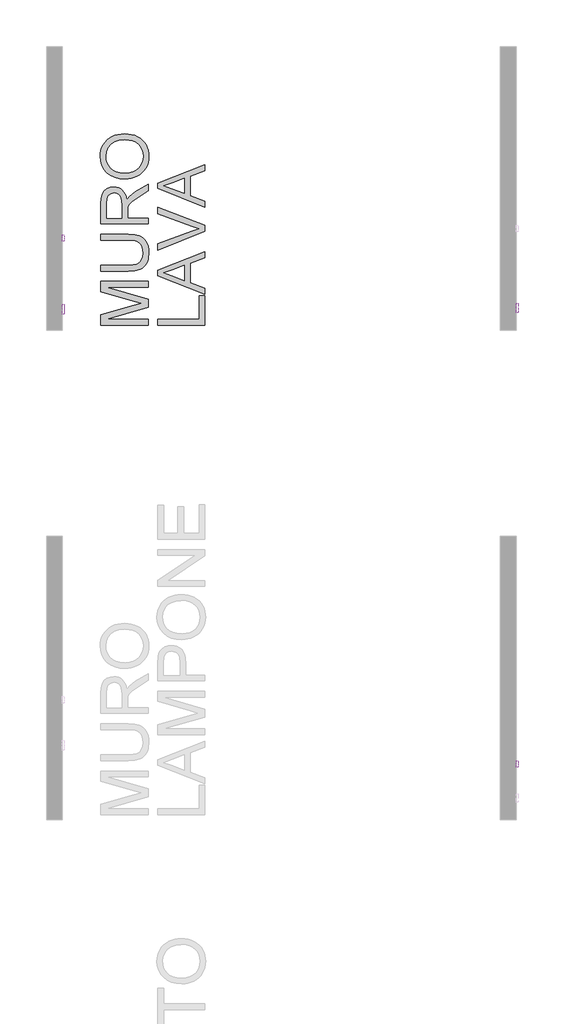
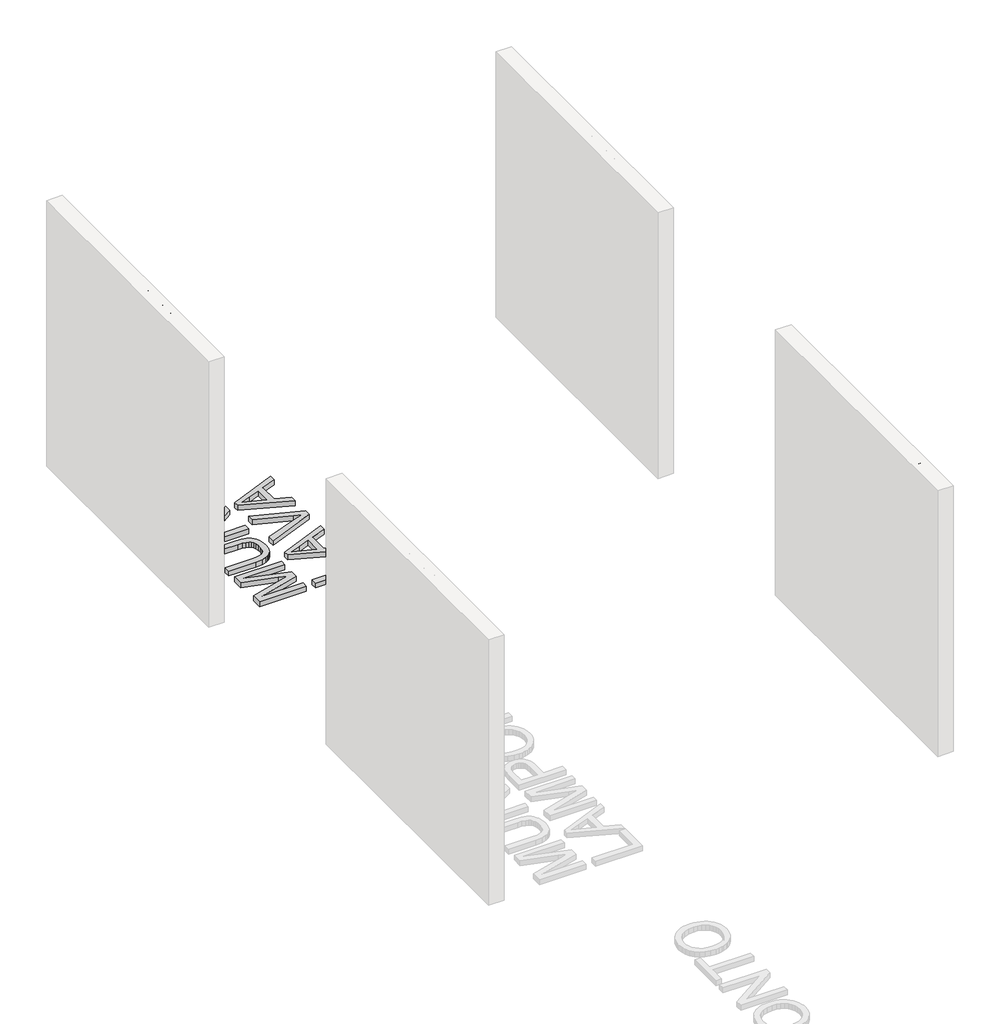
# One storey, part 9 of 11: 5 proxies.
"""IFC4 building model written with IfcOpenShell, lengths in millimetres."""

from ifc_helpers import new_model, si_unit, frame, origin, origin_with_axes, place, context, project, spatial, polyline, outline, extrude, element, save

model = new_model("IFC4")

# Units and contexts
model_context = context("Model", 3, world=origin())
ifc_project = project(units=[si_unit("LENGTHUNIT", "METRE", prefix="MILLI")], contexts=[model_context])

# Site, building, storey
site = spatial("IfcSite", under=ifc_project)
building = spatial("IfcBuilding", under=site)
storey = spatial("IfcBuildingStorey", under=building, Name="PORTOBELLO - SHOWROOM", Elevation=0.0)

# Proxies
placement = place(None, origin())
element("IfcBuildingElementProxy", 1, Name="10mm Arial", ObjectType="10mm Arial", at=placement, inside=storey, context=model_context, shape_type="SweptSolid", body=[
    extrude(outline(polyline([(4656.77717, 2563.6139899), (4656.77717, 2664.0703), (4678.3841059, 2664.0703), (4698.9364467, 2593.2652787), (4703.0812505, 2578.4764225), (4707.5694108, 2594.491552), (4727.7783951, 2664.0703), (4749.385331, 2664.0703), (4749.385331, 2563.6139899), (4736.8282922, 2563.6139899), (4736.8282922, 2651.5132612), (4711.5915873, 2563.6139899), (4694.5709137, 2563.6139899), (4669.3342088, 2651.5132612), (4669.3342088, 2563.6139899), (4656.77717, 2563.6139899)])), frame((-30379.0012486, 0.0, 0.0), z_axis=(1.0, 0.0, 0.0), x_axis=(0.0, 1.0, 0.0)), (0.0, 0.0, 1.0), 20.0),
    extrude(outline(polyline([(4816.8794143, 2563.6139899), (4816.8794143, 2576.293656), (4807.0447023, 2565.606684), (4794.2178834, 2562.04436), (4782.4088714, 2564.5459576), (4774.2664166, 2570.824477), (4770.5262829, 2580.0705778), (4769.790519, 2591.7446998), (4769.790519, 2637.3865926), (4782.3475577, 2637.3865926), (4782.3475577, 2597.6553372), (4783.1078472, 2584.8530437), (4788.0742541, 2577.3359883), (4797.4307195, 2574.6013988), (4807.9153564, 2577.397302), (4814.8438006, 2585.0124593), (4816.8794143, 2599.0042378), (4816.8794143, 2637.3865926), (4829.4364531, 2637.3865926), (4829.4364531, 2563.6139899), (4816.8794143, 2563.6139899)])), frame((-30379.0012486, 0.0, 0.0), z_axis=(1.0, 0.0, 0.0), x_axis=(0.0, 1.0, 0.0)), (0.0, 0.0, 1.0), 20.0),
    extrude(outline(polyline([(4846.7023814, 2563.6139899), (4846.7023814, 2637.3865926), (4857.6897903, 2637.3865926), (4857.6897903, 2626.4727601), (4865.4888886, 2636.5282013), (4873.3370379, 2638.9562225), (4885.9431276, 2635.0811988), (4881.7492728, 2623.8240097), (4872.9201049, 2626.3991837), (4865.8199824, 2623.9221116), (4861.2950339, 2617.054981), (4859.2594202, 2602.3887522), (4859.2594202, 2563.6139899), (4846.7023814, 2563.6139899)])), frame((-30379.0012486, 0.0, 0.0), z_axis=(1.0, 0.0, 0.0), x_axis=(0.0, 1.0, 0.0)), (0.0, 0.0, 1.0), 20.0),
    extrude(outline(polyline([(4890.6520171, 2600.5002913), (4893.3682125, 2618.2873857), (4901.5167987, 2630.7892422), (4911.5845026, 2636.9144774), (4923.6387693, 2638.9562225), (4936.8304045, 2636.4699533), (4947.367158, 2629.0111459), (4954.2741425, 2617.1684113), (4956.5764706, 2601.5303608), (4952.5052432, 2579.187661), (4940.6471802, 2566.5447831), (4923.6387693, 2562.04436), (4910.2877186, 2564.5214321), (4899.7632279, 2571.9526484), (4892.9298198, 2584.0437033), (4890.6520171, 2600.5002913)]), holes=[polyline([(4903.2090559, 2600.5248167), (4904.6621898, 2589.1603287), (4909.0215914, 2581.0638592), (4915.5821536, 2576.2170139), (4923.6387693, 2574.6013988), (4931.6585968, 2576.2262109), (4938.2068963, 2581.1006474), (4942.566298, 2589.3044159), (4944.0194319, 2600.9172242), (4942.5571009, 2611.9506184), (4938.1701081, 2619.9367233), (4931.6126116, 2624.7835686), (4923.6387693, 2626.3991837), (4915.5821536, 2624.7897), (4909.0215914, 2619.9612488), (4904.6621898, 2611.8831733), (4903.2090559, 2600.5248167)])]), frame((-30379.0012486, 0.0, 0.0), z_axis=(1.0, 0.0, 0.0), x_axis=(0.0, 1.0, 0.0)), (0.0, 0.0, 1.0), 20.0),
    extrude(outline(polyline([(5011.5135153, 2563.6139899), (5011.5135153, 2664.0703), (5024.070554, 2664.0703), (5024.070554, 2576.1710286), (5074.2987091, 2576.1710286), (5074.2987091, 2563.6139899), (5011.5135153, 2563.6139899)])), frame((-30379.0012486, 0.0, 0.0), z_axis=(1.0, 0.0, 0.0), x_axis=(0.0, 1.0, 0.0)), (0.0, 0.0, 1.0), 20.0),
    extrude(outline(polyline([(5133.9446432, 2573.0317689), (5121.7677492, 2564.5214321), (5108.3155309, 2562.04436), (5097.821697, 2563.5342821), (5090.0808467, 2568.0040483), (5085.3075778, 2574.7914712), (5083.7164882, 2583.2343629), (5086.1199839, 2593.1671768), (5092.4352915, 2600.3776639), (5101.2276711, 2604.4979423), (5112.0924527, 2606.3864032), (5133.8710668, 2610.7028853), (5133.9446432, 2613.4987884), (5130.4865525, 2622.7694147), (5116.6051385, 2626.3991837), (5103.900947, 2623.9834253), (5097.8431568, 2615.4117748), (5085.286118, 2616.9814046), (5090.7185088, 2629.2441378), (5101.6568668, 2636.4300994), (5118.2238193, 2638.9562225), (5133.4418712, 2636.724405), (5142.0380471, 2631.120336), (5145.8885454, 2622.5977364), (5146.501682, 2611.6103275), (5146.501682, 2595.9876054), (5147.1393441, 2574.1722031), (5149.6409417, 2563.6139899), (5137.0839029, 2563.6139899), (5133.9446432, 2573.0317689)]), holes=[polyline([(5133.9446432, 2598.1458465), (5113.686608, 2594.2953483), (5102.8831401, 2592.2597346), (5097.9903096, 2588.9487966), (5096.2735269, 2584.1172797), (5100.0136606, 2577.3237256), (5110.9888067, 2574.6013988), (5123.6929983, 2577.6057684), (5131.8845041, 2584.8775692), (5133.8710668, 2594.5896539), (5133.9446432, 2598.1458465)])]), frame((-30379.0012486, 0.0, 0.0), z_axis=(1.0, 0.0, 0.0), x_axis=(0.0, 1.0, 0.0)), (0.0, 0.0, 1.0), 20.0),
    extrude(outline(polyline([(5181.8674045, 2563.6139899), (5155.9194611, 2637.3865926), (5169.2122639, 2637.3865926), (5184.9330878, 2593.1917023), (5189.6665028, 2578.3292697), (5194.3018159, 2592.3578364), (5210.1207417, 2637.3865926), (5223.4135445, 2637.3865926), (5197.7844321, 2563.6139899), (5181.8674045, 2563.6139899)])), frame((-30379.0012486, 0.0, 0.0), z_axis=(1.0, 0.0, 0.0), x_axis=(0.0, 1.0, 0.0)), (0.0, 0.0, 1.0), 20.0),
    extrude(outline(polyline([(5281.4898488, 2573.0317689), (5269.3129547, 2564.5214321), (5255.8607364, 2562.04436), (5245.3669025, 2563.5342821), (5237.6260522, 2568.0040483), (5232.8527833, 2574.7914712), (5231.2616937, 2583.2343629), (5233.6651894, 2593.1671768), (5239.980497, 2600.3776639), (5248.7728767, 2604.4979423), (5259.6376583, 2606.3864032), (5281.4162724, 2610.7028853), (5281.4898488, 2613.4987884), (5278.031758, 2622.7694147), (5264.1503441, 2626.3991837), (5251.4461525, 2623.9834253), (5245.3883623, 2615.4117748), (5232.8313236, 2616.9814046), (5238.2637143, 2629.2441378), (5249.2020723, 2636.4300994), (5265.7690249, 2638.9562225), (5280.9870767, 2636.724405), (5289.5832527, 2631.120336), (5293.4337509, 2622.5977364), (5294.0468875, 2611.6103275), (5294.0468875, 2595.9876054), (5294.6845497, 2574.1722031), (5297.1861472, 2563.6139899), (5284.6291085, 2563.6139899), (5281.4898488, 2573.0317689)]), holes=[polyline([(5281.4898488, 2598.1458465), (5261.2318136, 2594.2953483), (5250.4283457, 2592.2597346), (5245.5355151, 2588.9487966), (5243.8187325, 2584.1172797), (5247.5588661, 2577.3237256), (5258.5340123, 2574.6013988), (5271.2382038, 2577.6057684), (5279.4297096, 2584.8775692), (5281.4162724, 2594.5896539), (5281.4898488, 2598.1458465)])]), frame((-30379.0012486, 0.0, 0.0), z_axis=(1.0, 0.0, 0.0), x_axis=(0.0, 1.0, 0.0)), (0.0, 0.0, 1.0), 20.0),
])
element("IfcBuildingElementProxy", 2, Name="10mm Arial", ObjectType="10mm Arial", at=placement, inside=storey, context=model_context, shape_type="SweptSolid", body=[
    extrude(outline(polyline([(4669.4182548, 2564.6541058), (4669.4182548, 2665.110416), (4691.0251906, 2665.110416), (4711.5775314, 2594.3053946), (4715.7223353, 2579.5165384), (4720.2104956, 2595.531668), (4740.4194799, 2665.110416), (4762.0264157, 2665.110416), (4762.0264157, 2564.6541058), (4749.4693769, 2564.6541058), (4749.4693769, 2652.5533772), (4724.2326721, 2564.6541058), (4707.2119984, 2564.6541058), (4681.9752936, 2652.5533772), (4681.9752936, 2564.6541058), (4669.4182548, 2564.6541058)])), frame((-26058.2301018, 0.0, 0.0), z_axis=(1.0, 0.0, 0.0), x_axis=(0.0, 1.0, 0.0)), (0.0, 0.0, 1.0), 20.0),
    extrude(outline(polyline([(4829.5204991, 2564.6541058), (4829.5204991, 2577.3337719), (4819.6857871, 2566.6468), (4806.8589682, 2563.084476), (4795.0499561, 2565.5860735), (4786.9075013, 2571.8645929), (4783.1673677, 2581.1106937), (4782.4316037, 2592.7848157), (4782.4316037, 2638.4267086), (4794.9886425, 2638.4267086), (4794.9886425, 2598.6954531), (4795.7489319, 2585.8931597), (4800.7153389, 2578.3761042), (4810.0718043, 2575.6415147), (4820.5564411, 2578.4374179), (4827.4848854, 2586.0525752), (4829.5204991, 2600.0443538), (4829.5204991, 2638.4267086), (4842.0775379, 2638.4267086), (4842.0775379, 2564.6541058), (4829.5204991, 2564.6541058)])), frame((-26058.2301018, 0.0, 0.0), z_axis=(1.0, 0.0, 0.0), x_axis=(0.0, 1.0, 0.0)), (0.0, 0.0, 1.0), 20.0),
    extrude(outline(polyline([(4859.3434662, 2564.6541058), (4859.3434662, 2638.4267086), (4870.3308751, 2638.4267086), (4870.3308751, 2627.5128761), (4878.1299734, 2637.5683173), (4885.9781226, 2639.9963384), (4898.5842123, 2636.1213148), (4894.3903576, 2624.8641257), (4885.5611897, 2627.4392997), (4878.4610672, 2624.9622276), (4873.9361186, 2618.095097), (4871.9005049, 2603.4288681), (4871.9005049, 2564.6541058), (4859.3434662, 2564.6541058)])), frame((-26058.2301018, 0.0, 0.0), z_axis=(1.0, 0.0, 0.0), x_axis=(0.0, 1.0, 0.0)), (0.0, 0.0, 1.0), 20.0),
    extrude(outline(polyline([(4903.2931019, 2601.5404072), (4906.0092973, 2619.3275017), (4914.1578834, 2631.8293581), (4924.2255874, 2637.9545934), (4936.2798541, 2639.9963384), (4949.4714893, 2637.5100693), (4960.0082428, 2630.0512618), (4966.9152272, 2618.2085273), (4969.2175554, 2602.5704768), (4965.146328, 2580.227777), (4953.288265, 2567.5848991), (4936.2798541, 2563.084476), (4922.9288034, 2565.5615481), (4912.4043126, 2572.9927644), (4905.5709045, 2585.0838193), (4903.2931019, 2601.5404072)]), holes=[polyline([(4915.8501406, 2601.5649327), (4917.3032745, 2590.2004447), (4921.6626762, 2582.1039751), (4928.2232384, 2577.2571298), (4936.2798541, 2575.6415147), (4944.2996816, 2577.2663269), (4950.8479811, 2582.1407633), (4955.2073827, 2590.3445318), (4956.6605166, 2601.9573401), (4955.1981857, 2612.9907343), (4950.8111929, 2620.9768393), (4944.2536963, 2625.8236846), (4936.2798541, 2627.4392997), (4928.2232384, 2625.8298159), (4921.6626762, 2621.0013648), (4917.3032745, 2612.9232893), (4915.8501406, 2601.5649327)])]), frame((-26058.2301018, 0.0, 0.0), z_axis=(1.0, 0.0, 0.0), x_axis=(0.0, 1.0, 0.0)), (0.0, 0.0, 1.0), 20.0),
    extrude(outline(polyline([(5024.1546, 2564.6541058), (5024.1546, 2665.110416), (5045.7615359, 2665.110416), (5066.3138767, 2594.3053946), (5070.4586805, 2579.5165384), (5074.9468408, 2595.531668), (5095.1558251, 2665.110416), (5116.7627609, 2665.110416), (5116.7627609, 2564.6541058), (5104.2057222, 2564.6541058), (5104.2057222, 2652.5533772), (5078.9690173, 2564.6541058), (5061.9483436, 2564.6541058), (5036.7116388, 2652.5533772), (5036.7116388, 2564.6541058), (5024.1546, 2564.6541058)])), frame((-26058.2301018, 0.0, 0.0), z_axis=(1.0, 0.0, 0.0), x_axis=(0.0, 1.0, 0.0)), (0.0, 0.0, 1.0), 20.0),
    extrude(outline(polyline([(5188.818581, 2586.6289237), (5201.1303652, 2585.0592938), (5196.6943214, 2575.7825362), (5189.6156587, 2568.8479606), (5180.0537925, 2564.5253471), (5168.1681384, 2563.084476), (5153.4344645, 2565.5707451), (5142.0975677, 2573.0295526), (5134.8686865, 2584.9765204), (5132.4590594, 2600.9272705), (5134.8932119, 2617.4145153), (5142.1956695, 2629.7446935), (5153.3792822, 2637.4334272), (5167.4568999, 2639.9963384), (5181.0961248, 2637.4395586), (5191.9946289, 2629.769219), (5199.1407367, 2617.4635662), (5201.5227726, 2601.0008469), (5201.4491962, 2597.6163326), (5145.0160982, 2597.6163326), (5147.1896676, 2588.2169476), (5152.238848, 2581.3068975), (5159.5259772, 2577.0578604), (5168.413393, 2575.6415147), (5180.7251772, 2578.2657396), (5188.818581, 2586.6289237)]), holes=[polyline([(5145.0160982, 2610.1733714), (5188.9657338, 2610.1733714), (5183.9380132, 2621.5531877), (5176.6171615, 2625.9677717), (5167.4078489, 2627.4392997), (5151.9445424, 2622.7426729), (5147.079303, 2617.2520341), (5145.0160982, 2610.1733714)])]), frame((-26058.2301018, 0.0, 0.0), z_axis=(1.0, 0.0, 0.0), x_axis=(0.0, 1.0, 0.0)), (0.0, 0.0, 1.0), 20.0),
    extrude(outline(polyline([(5214.0798114, 2564.6541058), (5214.0798114, 2638.4267086), (5225.0672203, 2638.4267086), (5225.0672203, 2627.5128761), (5232.8663186, 2637.5683173), (5240.7144678, 2639.9963384), (5253.3205575, 2636.1213148), (5249.1267028, 2624.8641257), (5240.2975349, 2627.4392997), (5233.1974124, 2624.9622276), (5228.6724639, 2618.095097), (5226.6368502, 2603.4288681), (5226.6368502, 2564.6541058), (5214.0798114, 2564.6541058)])), frame((-26058.2301018, 0.0, 0.0), z_axis=(1.0, 0.0, 0.0), x_axis=(0.0, 1.0, 0.0)), (0.0, 0.0, 1.0), 20.0),
    extrude(outline(polyline([(-26038.2301018, 5273.7257455), (-26038.2301018, 5261.1687068), (-26058.2301018, 5261.1687068), (-26058.2301018, 5273.7257455), (-26038.2301018, 5273.7257455)])), frame((0.0, 0.0, 2564.6541058), z_axis=(0.0, 0.0, 1.0), x_axis=(1.0, 0.0, 0.0)), (0.0, 0.0, 1.0), 100.4563101),
    extrude(outline(polyline([(5289.422044, 2601.5404072), (5292.1382394, 2619.3275017), (5300.2868256, 2631.8293581), (5310.3545295, 2637.9545934), (5322.4087962, 2639.9963384), (5335.6004314, 2637.5100693), (5346.1371849, 2630.0512618), (5353.0441694, 2618.2085273), (5355.3464975, 2602.5704768), (5351.2752701, 2580.227777), (5339.4172071, 2567.5848991), (5322.4087962, 2563.084476), (5309.0577455, 2565.5615481), (5298.5332547, 2572.9927644), (5291.6998467, 2585.0838193), (5289.422044, 2601.5404072)]), holes=[polyline([(5301.9790828, 2601.5649327), (5303.4322166, 2590.2004447), (5307.7916183, 2582.1039751), (5314.3521805, 2577.2571298), (5322.4087962, 2575.6415147), (5330.4286237, 2577.2663269), (5336.9769232, 2582.1407633), (5341.3363249, 2590.3445318), (5342.7894588, 2601.9573401), (5341.3271278, 2612.9907343), (5336.940135, 2620.9768393), (5330.3826385, 2625.8236846), (5322.4087962, 2627.4392997), (5314.3521805, 2625.8298159), (5307.7916183, 2621.0013648), (5303.4322166, 2612.9232893), (5301.9790828, 2601.5649327)])]), frame((-26058.2301018, 0.0, 0.0), z_axis=(1.0, 0.0, 0.0), x_axis=(0.0, 1.0, 0.0)), (0.0, 0.0, 1.0), 20.0),
    extrude(outline(polyline([(5396.1568735, 2575.12648), (5397.7265034, 2564.2862238), (5388.3332498, 2563.084476), (5377.8118247, 2565.1691406), (5372.5633749, 2570.6383196), (5371.042796, 2584.8876156), (5371.042796, 2625.8696698), (5361.6250169, 2625.8696698), (5361.6250169, 2638.4267086), (5371.042796, 2638.4267086), (5371.042796, 2656.3548245), (5383.5998348, 2663.7369899), (5383.5998348, 2638.4267086), (5396.1568735, 2638.4267086), (5396.1568735, 2625.8696698), (5383.5998348, 2625.8696698), (5383.5998348, 2585.2554976), (5384.2620224, 2578.7807744), (5386.4080007, 2576.4876433), (5390.6876945, 2575.6415147), (5396.1568735, 2575.12648)])), frame((-26058.2301018, 0.0, 0.0), z_axis=(1.0, 0.0, 0.0), x_axis=(0.0, 1.0, 0.0)), (0.0, 0.0, 1.0), 20.0),
])
element("IfcBuildingElementProxy", 3, Name="10mm Arial Narrow", ObjectType="10mm Arial Narrow", at=placement, inside=storey, context=model_context, shape_type="SweptSolid", body=[
    extrude(outline(polyline([(5348.9122292, 2563.6139899), (5348.9122292, 2664.3325936), (5380.2091138, 2664.3325936), (5396.5048154, 2662.4542729), (5407.9778015, 2652.9738297), (5412.2674799, 2635.9547209), (5410.4811715, 2623.8788954), (5405.1222463, 2614.2525016), (5395.3784575, 2607.9512432), (5380.4375583, 2605.8508237), (5358.6591908, 2605.8508237), (5358.6591908, 2563.6139899), (5348.9122292, 2563.6139899)]), holes=[polyline([(5358.6591908, 2617.222279), (5381.6305458, 2617.222279), (5397.4947411, 2621.7530932), (5402.5205183, 2635.4216839), (5400.0457038, 2645.5874603), (5394.0680749, 2651.3874102), (5381.4021013, 2652.9611384), (5358.6591908, 2652.9611384), (5358.6591908, 2617.222279)])]), frame((-30379.0012486, 0.0, 0.0), z_axis=(1.0, 0.0, 0.0), x_axis=(0.0, 1.0, 0.0)), (0.0, 0.0, 1.0), 20.0),
    extrude(outline(polyline([(5420.389948, 2600.1650961), (5422.3444168, 2616.7558716), (5428.2078234, 2628.7079564), (5437.0663902, 2635.932511), (5448.0063393, 2638.3406959), (5458.8193749, 2635.932511), (5467.7033243, 2628.7079564), (5473.6428791, 2616.946242), (5475.6227307, 2600.9265774), (5473.6777803, 2583.7646909), (5467.8429292, 2571.6222357), (5458.993881, 2564.3976811), (5448.0063393, 2561.9894963), (5437.1457111, 2564.4040268), (5428.2712802, 2571.6476184), (5422.360281, 2583.6060489), (5420.389948, 2600.1650961)]), holes=[polyline([(5430.1369096, 2600.1904788), (5431.4409465, 2587.6387274), (5435.3530571, 2578.7674693), (5441.1942538, 2573.4942108), (5448.2855491, 2571.7364579), (5455.0056223, 2573.510075), (5460.6976956, 2578.8309261), (5464.5812507, 2587.7180484), (5465.875769, 2600.1904788), (5464.5717321, 2612.7041561), (5460.6596216, 2621.5627228), (5454.8184248, 2626.8359814), (5447.7271295, 2628.5937342), (5440.9594637, 2626.8264629), (5435.2769089, 2621.5246488), (5431.4219094, 2612.6565635), (5430.1369096, 2600.1904788)])]), frame((-30379.0012486, 0.0, 0.0), z_axis=(1.0, 0.0, 0.0), x_axis=(0.0, 1.0, 0.0)), (0.0, 0.0, 1.0), 20.0),
    extrude(outline(polyline([(5547.1004494, 2571.7364579), (5548.7249431, 2561.9894963), (5541.3639564, 2561.9894963), (5533.0891921, 2564.1089528), (5528.7741309, 2569.9089026), (5527.6065261, 2584.5547278), (5527.6065261, 2626.9692406), (5519.4840581, 2626.9692406), (5519.4840581, 2630.2182278), (5517.8595645, 2625.344747), (5510.2955161, 2626.9692406), (5504.2163564, 2624.6467224), (5500.3454928, 2618.1614393), (5498.3656412, 2602.7541328), (5498.3656412, 2563.6139899), (5488.6186795, 2563.6139899), (5488.6186795, 2636.7162023), (5498.3656412, 2636.7162023), (5498.3656412, 2627.020006), (5504.6097885, 2636.1070172), (5511.0062321, 2638.3406959), (5519.4840581, 2636.7162023), (5527.6065261, 2636.7162023), (5527.6065261, 2652.9611384), (5537.3534878, 2661.0836064), (5537.3534878, 2636.7162023), (5547.1004494, 2636.7162023), (5547.1004494, 2626.9692406), (5537.3534878, 2626.9692406), (5537.3534878, 2582.3210491), (5538.2165, 2574.3254946), (5542.8361537, 2571.7364579), (5547.1004494, 2571.7364579)])), frame((-30379.0012486, 0.0, 0.0), z_axis=(1.0, 0.0, 0.0), x_axis=(0.0, 1.0, 0.0)), (0.0, 0.0, 1.0), 20.0),
    extrude(outline(polyline([(5553.5984239, 2600.1650961), (5555.5528928, 2616.7558716), (5561.4162994, 2628.7079564), (5570.2748661, 2635.932511), (5581.2148152, 2638.3406959), (5592.0278508, 2635.932511), (5600.9118002, 2628.7079564), (5606.851355, 2616.946242), (5608.8312066, 2600.9265774), (5606.8862562, 2583.7646909), (5601.0514052, 2571.6222357), (5592.202357, 2564.3976811), (5581.2148152, 2561.9894963), (5570.3541871, 2564.4040268), (5561.4797562, 2571.6476184), (5555.568757, 2583.6060489), (5553.5984239, 2600.1650961)]), holes=[polyline([(5563.3453855, 2600.1904788), (5564.6494224, 2587.6387274), (5568.561533, 2578.7674693), (5574.4027297, 2573.4942108), (5581.4940251, 2571.7364579), (5588.2140982, 2573.510075), (5593.9061716, 2578.8309261), (5597.7897266, 2587.7180484), (5599.0842449, 2600.1904788), (5597.7802081, 2612.7041561), (5593.8680975, 2621.5627228), (5588.0269007, 2626.8359814), (5580.9356054, 2628.5937342), (5574.1679396, 2626.8264629), (5568.4853848, 2621.5246488), (5564.6303854, 2612.6565635), (5563.3453855, 2600.1904788)])]), frame((-30379.0012486, 0.0, 0.0), z_axis=(1.0, 0.0, 0.0), x_axis=(0.0, 1.0, 0.0)), (0.0, 0.0, 1.0), 20.0),
    extrude(outline(polyline([(5631.5741171, 2563.6139899), (5621.8271555, 2563.6139899), (5621.8271555, 2664.3325936), (5631.5741171, 2664.3325936), (5631.5741171, 2628.9237095), (5638.9731778, 2636.0054863), (5648.1744112, 2638.3406959), (5661.0561378, 2634.1398569), (5670.3335193, 2621.4104265), (5673.8109509, 2600.7235157), (5671.8786919, 2584.2691723), (5666.0819149, 2572.0664332), (5657.7087926, 2564.5087305), (5648.0474976, 2561.9894963), (5638.7066594, 2564.6039157), (5631.5741171, 2572.3710257), (5631.5741171, 2563.6139899)]), holes=[polyline([(5631.5741171, 2600.7235157), (5633.6554995, 2583.4759625), (5639.5442889, 2574.7443094), (5647.9967322, 2571.7364579), (5653.9394598, 2573.5259392), (5659.1778171, 2578.8943829), (5664.0639893, 2600.3173923), (5659.3554961, 2621.7530932), (5654.1107931, 2626.883574), (5647.7936705, 2628.5937342), (5641.8160417, 2626.804253), (5636.5237461, 2621.4358093), (5631.5741171, 2600.7235157)])]), frame((-30379.0012486, 0.0, 0.0), z_axis=(1.0, 0.0, 0.0), x_axis=(0.0, 1.0, 0.0)), (0.0, 0.0, 1.0), 20.0),
    extrude(outline(polyline([(5725.7947464, 2586.3569004), (5735.5417081, 2584.7324068), (5731.8421777, 2574.8458402), (5726.0231908, 2567.7259893), (5718.3195376, 2563.4236195), (5708.9660079, 2561.9894963), (5697.3724539, 2564.4040268), (5688.2283317, 2571.6476184), (5682.288777, 2583.4537526), (5680.3089254, 2599.555911), (5682.2982955, 2616.2228347), (5688.2664058, 2628.4033639), (5697.2804416, 2635.8563629), (5708.4075883, 2638.3406959), (5719.0905375, 2635.9420295), (5727.8380548, 2628.7460305), (5733.6729059, 2617.0065259), (5735.6178562, 2600.9773429), (5735.5417081, 2597.7283557), (5690.055887, 2597.7283557), (5696.0588986, 2578.2851978), (5701.9889348, 2573.3736429), (5709.0929215, 2571.7364579), (5719.2713893, 2575.3915685), (5725.7947464, 2586.3569004)]), holes=[polyline([(5690.7158376, 2607.4753173), (5725.7947464, 2607.4753173), (5721.5304507, 2621.7404018), (5715.7051182, 2626.8804011), (5708.4837364, 2628.5937342), (5696.2746516, 2622.8826239), (5690.7158376, 2607.4753173)])]), frame((-30379.0012486, 0.0, 0.0), z_axis=(1.0, 0.0, 0.0), x_axis=(0.0, 1.0, 0.0)), (0.0, 0.0, 1.0), 20.0),
    extrude(outline(polyline([(-30359.0012486, 5758.2846186), (-30359.0012486, 5748.537657), (-30379.0012486, 5748.537657), (-30379.0012486, 5758.2846186), (-30359.0012486, 5758.2846186)])), frame((0.0, 0.0, 2563.6139899), z_axis=(0.0, 0.0, 1.0), x_axis=(1.0, 0.0, 0.0)), (0.0, 0.0, 1.0), 100.7186038),
    extrude(outline(polyline([(-30359.0012486, 5784.2765163), (-30359.0012486, 5774.5295547), (-30379.0012486, 5774.5295547), (-30379.0012486, 5784.2765163), (-30359.0012486, 5784.2765163)])), frame((0.0, 0.0, 2563.6139899), z_axis=(0.0, 0.0, 1.0), x_axis=(1.0, 0.0, 0.0)), (0.0, 0.0, 1.0), 100.7186038),
    extrude(outline(polyline([(5795.6479716, 2600.1650961), (5797.6024405, 2616.7558716), (5803.4658471, 2628.7079564), (5812.3244138, 2635.932511), (5823.264363, 2638.3406959), (5834.0773985, 2635.932511), (5842.961348, 2628.7079564), (5848.9009027, 2616.946242), (5850.8807543, 2600.9265774), (5848.935804, 2583.7646909), (5843.1009529, 2571.6222357), (5834.2519047, 2564.3976811), (5823.264363, 2561.9894963), (5812.4037348, 2564.4040268), (5803.5293039, 2571.6476184), (5797.6183047, 2583.6060489), (5795.6479716, 2600.1650961)]), holes=[polyline([(5805.3949333, 2600.1904788), (5806.6989701, 2587.6387274), (5810.6110807, 2578.7674693), (5816.4522775, 2573.4942108), (5823.5435728, 2571.7364579), (5830.263646, 2573.510075), (5835.9557193, 2578.8309261), (5839.8392743, 2587.7180484), (5841.1337927, 2600.1904788), (5839.8297558, 2612.7041561), (5835.9176452, 2621.5627228), (5830.0764485, 2626.8359814), (5822.9851531, 2628.5937342), (5816.2174874, 2626.8264629), (5810.5349326, 2621.5246488), (5806.6799331, 2612.6565635), (5805.3949333, 2600.1904788)])]), frame((-30379.0012486, 0.0, 0.0), z_axis=(1.0, 0.0, 0.0), x_axis=(0.0, 1.0, 0.0)), (0.0, 0.0, 1.0), 20.0),
])
element("IfcBuildingElementProxy", 4, Name="10mm Arial Narrow", ObjectType="10mm Arial Narrow", at=placement, inside=storey, context=model_context, shape_type="SweptSolid", body=[
    extrude(outline(polyline([(343.3481351, 2562.4858779), (343.3481351, 2663.2044816), (374.6450198, 2663.2044816), (390.9407213, 2661.3261609), (402.4137074, 2651.8457177), (406.7033858, 2634.8266089), (404.9170774, 2622.7507834), (399.5581522, 2613.1243896), (389.8143634, 2606.8231312), (374.8734642, 2604.7227117), (353.0950967, 2604.7227117), (353.0950967, 2562.4858779), (343.3481351, 2562.4858779)]), holes=[polyline([(353.0950967, 2616.094167), (376.0664517, 2616.094167), (391.9306471, 2620.6249812), (396.9564242, 2634.2935719), (394.4816097, 2644.4593484), (388.5039809, 2650.2592982), (375.8380073, 2651.8330264), (353.0950967, 2651.8330264), (353.0950967, 2616.094167)])]), frame((-26058.2301018, 0.0, 0.0), z_axis=(1.0, 0.0, 0.0), x_axis=(0.0, 1.0, 0.0)), (0.0, 0.0, 1.0), 20.0),
    extrude(outline(polyline([(414.8258539, 2599.0369841), (416.7803228, 2615.6277596), (422.6437294, 2627.5798444), (431.5022961, 2634.804399), (442.4422452, 2637.2125839), (453.2552808, 2634.804399), (462.1392302, 2627.5798444), (468.078785, 2615.81813), (470.0586366, 2599.7984655), (468.1136862, 2582.6365789), (462.2788352, 2570.4941237), (453.429787, 2563.2695691), (442.4422452, 2560.8613843), (431.5816171, 2563.2759148), (422.7071862, 2570.5195064), (416.7961869, 2582.4779369), (414.8258539, 2599.0369841)]), holes=[polyline([(424.5728155, 2599.0623668), (425.8768524, 2586.5106154), (429.788963, 2577.6393573), (435.6301597, 2572.3660988), (442.7214551, 2570.6083459), (449.4415282, 2572.381963), (455.1336016, 2577.7028141), (459.0171566, 2586.5899364), (460.3116749, 2599.0623668), (459.0076381, 2611.5760441), (455.0955275, 2620.4346108), (449.2543307, 2625.7078694), (442.1630354, 2627.4656222), (435.3953696, 2625.6983509), (429.7128148, 2620.3965368), (425.8578154, 2611.5284515), (424.5728155, 2599.0623668)])]), frame((-26058.2301018, 0.0, 0.0), z_axis=(1.0, 0.0, 0.0), x_axis=(0.0, 1.0, 0.0)), (0.0, 0.0, 1.0), 20.0),
    extrude(outline(polyline([(541.5363554, 2570.6083459), (543.160849, 2560.8613843), (535.7998623, 2560.8613843), (527.525098, 2562.9808408), (523.2100369, 2568.7807906), (522.0424321, 2583.4266158), (522.0424321, 2625.8411286), (513.919964, 2625.8411286), (513.919964, 2629.0901159), (512.2954704, 2624.216635), (504.731422, 2625.8411286), (498.6522624, 2623.5186104), (494.7813987, 2617.0333273), (492.8015471, 2601.6260208), (492.8015471, 2562.4858779), (483.0545855, 2562.4858779), (483.0545855, 2635.5880903), (492.8015471, 2635.5880903), (492.8015471, 2625.8918941), (499.0456944, 2634.9789052), (505.442138, 2637.2125839), (513.919964, 2635.5880903), (522.0424321, 2635.5880903), (522.0424321, 2651.8330264), (531.7893937, 2659.9554944), (531.7893937, 2635.5880903), (541.5363554, 2635.5880903), (541.5363554, 2625.8411286), (531.7893937, 2625.8411286), (531.7893937, 2581.1929371), (532.652406, 2573.1973826), (537.2720597, 2570.6083459), (541.5363554, 2570.6083459)])), frame((-26058.2301018, 0.0, 0.0), z_axis=(1.0, 0.0, 0.0), x_axis=(0.0, 1.0, 0.0)), (0.0, 0.0, 1.0), 20.0),
    extrude(outline(polyline([(548.0343298, 2599.0369841), (549.9887987, 2615.6277596), (555.8522053, 2627.5798444), (564.710772, 2634.804399), (575.6507212, 2637.2125839), (586.4637567, 2634.804399), (595.3477062, 2627.5798444), (601.2872609, 2615.81813), (603.2671125, 2599.7984655), (601.3221622, 2582.6365789), (595.4873111, 2570.4941237), (586.6382629, 2563.2695691), (575.6507212, 2560.8613843), (564.790093, 2563.2759148), (555.9156621, 2570.5195064), (550.0046629, 2582.4779369), (548.0343298, 2599.0369841)]), holes=[polyline([(557.7812915, 2599.0623668), (559.0853283, 2586.5106154), (562.9974389, 2577.6393573), (568.8386357, 2572.3660988), (575.929931, 2570.6083459), (582.6500042, 2572.381963), (588.3420775, 2577.7028141), (592.2256325, 2586.5899364), (593.5201509, 2599.0623668), (592.216114, 2611.5760441), (588.3040034, 2620.4346108), (582.4628067, 2625.7078694), (575.3715113, 2627.4656222), (568.6038456, 2625.6983509), (562.9212908, 2620.3965368), (559.0662913, 2611.5284515), (557.7812915, 2599.0623668)])]), frame((-26058.2301018, 0.0, 0.0), z_axis=(1.0, 0.0, 0.0), x_axis=(0.0, 1.0, 0.0)), (0.0, 0.0, 1.0), 20.0),
    extrude(outline(polyline([(626.010023, 2562.4858779), (616.2630614, 2562.4858779), (616.2630614, 2663.2044816), (626.010023, 2663.2044816), (626.010023, 2627.7955975), (633.4090838, 2634.8773743), (642.6103171, 2637.2125839), (655.4920438, 2633.011745), (664.7694252, 2620.2823146), (668.2468569, 2599.5954038), (666.3145979, 2583.1410603), (660.5178209, 2570.9383212), (652.1446985, 2563.3806185), (642.4834035, 2560.8613843), (633.1425653, 2563.4758037), (626.010023, 2571.2429137), (626.010023, 2562.4858779)]), holes=[polyline([(626.010023, 2599.5954038), (628.0914055, 2582.3478505), (633.9801948, 2573.6161974), (642.4326381, 2570.6083459), (648.3753657, 2572.3978272), (653.613723, 2577.7662709), (658.4998952, 2599.1892804), (653.791402, 2620.6249812), (648.546699, 2625.755462), (642.2295764, 2627.4656222), (636.2519476, 2625.676141), (630.959652, 2620.3076973), (626.010023, 2599.5954038)])]), frame((-26058.2301018, 0.0, 0.0), z_axis=(1.0, 0.0, 0.0), x_axis=(0.0, 1.0, 0.0)), (0.0, 0.0, 1.0), 20.0),
    extrude(outline(polyline([(720.2306524, 2585.2287884), (729.977614, 2583.6042948), (726.2780836, 2573.7177282), (720.4590968, 2566.5978773), (712.7554435, 2562.2955075), (703.4019139, 2560.8613843), (691.8083599, 2563.2759148), (682.6642377, 2570.5195064), (676.7246829, 2582.3256407), (674.7448313, 2598.427799), (676.7342014, 2615.0947227), (682.7023117, 2627.2752519), (691.7163475, 2634.7282509), (702.8434942, 2637.2125839), (713.5264434, 2634.8139176), (722.2739607, 2627.6179185), (728.1088118, 2615.8784139), (730.0537621, 2599.8492309), (729.977614, 2596.6002437), (684.491793, 2596.6002437), (690.4948045, 2577.1570858), (696.4248407, 2572.2455309), (703.5288274, 2570.6083459), (713.7072952, 2574.2634565), (720.2306524, 2585.2287884)]), holes=[polyline([(685.1517435, 2606.3472053), (720.2306524, 2606.3472053), (715.9663566, 2620.6122898), (710.1410241, 2625.7522891), (702.9196423, 2627.4656222), (690.7105576, 2621.7545119), (685.1517435, 2606.3472053)])]), frame((-26058.2301018, 0.0, 0.0), z_axis=(1.0, 0.0, 0.0), x_axis=(0.0, 1.0, 0.0)), (0.0, 0.0, 1.0), 20.0),
    extrude(outline(polyline([(-26038.2301018, 752.7205245), (-26038.2301018, 742.9735629), (-26058.2301018, 742.9735629), (-26058.2301018, 752.7205245), (-26038.2301018, 752.7205245)])), frame((0.0, 0.0, 2562.4858779), z_axis=(0.0, 0.0, 1.0), x_axis=(1.0, 0.0, 0.0)), (0.0, 0.0, 1.0), 100.7186038),
    extrude(outline(polyline([(-26038.2301018, 778.7124223), (-26038.2301018, 768.9654606), (-26058.2301018, 768.9654606), (-26058.2301018, 778.7124223), (-26038.2301018, 778.7124223)])), frame((0.0, 0.0, 2562.4858779), z_axis=(0.0, 0.0, 1.0), x_axis=(1.0, 0.0, 0.0)), (0.0, 0.0, 1.0), 100.7186038),
    extrude(outline(polyline([(790.0838775, 2599.0369841), (792.0383464, 2615.6277596), (797.901753, 2627.5798444), (806.7603197, 2634.804399), (817.7002689, 2637.2125839), (828.5133045, 2634.804399), (837.3972539, 2627.5798444), (843.3368087, 2615.81813), (845.3166602, 2599.7984655), (843.3717099, 2582.6365789), (837.5368588, 2570.4941237), (828.6878106, 2563.2695691), (817.7002689, 2560.8613843), (806.8396407, 2563.2759148), (797.9652098, 2570.5195064), (792.0542106, 2582.4779369), (790.0838775, 2599.0369841)]), holes=[polyline([(799.8308392, 2599.0623668), (801.1348761, 2586.5106154), (805.0469866, 2577.6393573), (810.8881834, 2572.3660988), (817.9794787, 2570.6083459), (824.6995519, 2572.381963), (830.3916252, 2577.7028141), (834.2751802, 2586.5899364), (835.5696986, 2599.0623668), (834.2656617, 2611.5760441), (830.3535511, 2620.4346108), (824.5123544, 2625.7078694), (817.4210591, 2627.4656222), (810.6533933, 2625.6983509), (804.9708385, 2620.3965368), (801.115839, 2611.5284515), (799.8308392, 2599.0623668)])]), frame((-26058.2301018, 0.0, 0.0), z_axis=(1.0, 0.0, 0.0), x_axis=(0.0, 1.0, 0.0)), (0.0, 0.0, 1.0), 20.0),
])
element("IfcBuildingElementProxy", 5, Name="450mm Arial", ObjectType="450mm Arial", at=placement, inside=storey, context=model_context, shape_type="SweptSolid", body=[
    extrude(outline(polyline([(-29561.5974385, 4554.1544482), (-30011.2535813, 4554.1544482), (-30011.2535813, 4650.8700395), (-29694.3206505, 4742.8651195), (-29628.1237135, 4761.4178265), (-29699.8096171, 4781.5074442), (-30011.2535813, 4871.9656136), (-30011.2535813, 4968.6812049), (-29561.5974385, 4968.6812049), (-29561.5974385, 4912.474187), (-29955.0465634, 4912.474187), (-29561.5974385, 4799.5112547), (-29561.5974385, 4723.3243984), (-29955.0465634, 4610.3614661), (-29561.5974385, 4610.3614661), (-29561.5974385, 4554.1544482)])), origin_with_axes(), (0.0, 0.0, 1.0), 50.0),
    extrude(outline(polyline([(-30011.2535813, 5362.1303298), (-30011.2535813, 5418.3373477), (-29751.8450204, 5418.3373477), (-29691.0958827, 5414.5225159), (-29644.3161649, 5403.0780206), (-29625.3449242, 5393.9183076), (-29608.2262096, 5381.6984957), (-29592.9600213, 5366.418585), (-29579.5463592, 5348.0785754), (-29568.6198851, 5326.6578833), (-29560.8152607, 5302.135925), (-29556.1324861, 5274.5127007), (-29554.5715612, 5243.7882102), (-29560.0056382, 5186.7166801), (-29566.7982343, 5162.4726008), (-29576.3078689, 5141.0896454), (-29588.3938872, 5122.5643831), (-29602.9156344, 5106.8933835), (-29619.8731106, 5094.0766465), (-29639.2663157, 5084.1141722), (-29688.0220614, 5071.3111576), (-29751.8450204, 5067.0434861), (-30011.2535813, 5067.0434861), (-30011.2535813, 5123.250504), (-29753.8210483, 5123.250504), (-29703.3088333, 5126.0224321), (-29668.1382799, 5134.3382165), (-29643.7809907, 5149.4054297), (-29625.7085682, 5172.4316446), (-29614.5110764, 5202.4562918), (-29610.7785791, 5238.5188023), (-29612.6242441, 5269.4971575), (-29618.1612391, 5295.6863893), (-29627.3895642, 5317.0864978), (-29640.3092193, 5333.6974829), (-29658.4776987, 5346.1368534), (-29683.4524967, 5355.0221181), (-29715.2336132, 5360.3532769), (-29753.8210483, 5362.1303298), (-30011.2535813, 5362.1303298)])), origin_with_axes(), (0.0, 0.0, 1.0), 50.0),
    extrude(outline(polyline([(-29561.5974385, 5516.6996289), (-30011.2535813, 5516.6996289), (-30011.2535813, 5710.4601495), (-30008.2209272, 5762.5367199), (-29999.1229651, 5800.4243118), (-29982.3267274, 5828.1161482), (-29956.1992464, 5849.6054524), (-29923.8006211, 5863.396481), (-29888.1909504, 5867.9934905), (-29865.0961235, 5866.0895052), (-29843.89499, 5860.3775494), (-29824.5875501, 5850.8576229), (-29807.1738036, 5837.5297259), (-29792.2095084, 5820.2223282), (-29780.2504225, 5798.7638994), (-29771.2965457, 5773.1544397), (-29765.3478782, 5743.393949), (-29741.3062045, 5775.3397345), (-29683.4524967, 5820.8981572), (-29561.5974385, 5895.8774408), (-29561.5974385, 5830.5587384), (-29654.8000911, 5772.0463546), (-29716.4960756, 5729.7813118), (-29734.4861635, 5714.069145), (-29745.6424881, 5700.0860026), (-29756.345973, 5673.3547353), (-29758.3220009, 5640.7502738), (-29758.3220009, 5572.9066468), (-29561.5974385, 5572.9066468), (-29561.5974385, 5516.6996289)]), holes=[polyline([(-29814.5290188, 5572.9066468), (-29814.5290188, 5698.713761), (-29816.5187692, 5734.8448835), (-29822.4880204, 5762.8797804), (-29832.8347224, 5783.9848569), (-29847.9568253, 5799.3265185), (-29866.2488065, 5808.6714841), (-29886.1051431, 5811.7864726), (-29900.4793743, 5810.3010211), (-29913.5225312, 5805.8446663), (-29935.6156217, 5788.0192473), (-29944.1166587, 5774.4100408), (-29950.188828, 5757.3496465), (-29955.0465634, 5712.8752947), (-29955.0465634, 5572.9066468), (-29814.5290188, 5572.9066468)])]), origin_with_axes(), (0.0, 0.0, 1.0), 50.0),
    extrude(outline(polyline([(-29780.497426, 5945.27814), (-29833.2395337, 5949.0243597), (-29879.9300557, 5960.2630188), (-29920.5689921, 5978.9941173), (-29955.1563428, 6005.2176552), (-29982.7727059, 6037.3624158), (-30002.4986796, 6073.8571824), (-30014.3342638, 6114.701955), (-30018.2794585, 6159.8967336), (-30016.4269323, 6190.1478007), (-30010.8693536, 6218.8756796), (-30001.6067225, 6246.0803702), (-29988.6390389, 6271.7618727), (-29972.3573918, 6295.19976), (-29953.15287, 6315.6736053), (-29931.0254734, 6333.1834088), (-29905.9752021, 6347.7291702), (-29878.5715365, 6359.1599431), (-29849.3839566, 6367.3247809), (-29818.4124627, 6372.2236836), (-29785.6570546, 6373.8566512), (-29752.4693903, 6372.1379185), (-29721.0793627, 6366.9817205), (-29691.4869715, 6358.3880572), (-29663.692217, 6346.3569286), (-29638.4292483, 6331.1730747), (-29616.4322147, 6313.1212359), (-29597.7011162, 6292.201412), (-29582.2359528, 6268.413603), (-29570.1327815, 6242.694364), (-29561.4876591, 6215.9802497), (-29556.3005857, 6188.2712603), (-29554.5715612, 6159.5673956), (-29556.4824077, 6128.7880155), (-29562.2149472, 6099.6827701), (-29571.7691797, 6072.2516596), (-29585.1451051, 6046.4946839), (-29601.8247023, 6023.0842414), (-29621.2899501, 6002.6927305), (-29643.5408484, 5985.3201513), (-29668.5773972, 5970.9665037), (-29695.3944296, 5959.7278446), (-29722.9867785, 5951.700231), (-29751.354444, 5946.8836628), (-29780.497426, 5945.27814)]), holes=[polyline([(-29779.9485293, 6001.4851579), (-29742.6853074, 6004.2948227), (-29709.6074225, 6012.723817), (-29680.7148746, 6026.7721408), (-29656.0076638, 6046.4397942), (-29636.2199392, 6070.3476743), (-29622.0858503, 6097.1166783), (-29613.6053969, 6126.746806), (-29610.7785791, 6159.2380576), (-29613.6328417, 6192.2850671), (-29622.1956296, 6222.2651165), (-29636.4669427, 6249.1782057), (-29656.4467811, 6273.024335), (-29681.6754438, 6292.547903), (-29711.6932298, 6306.4933087), (-29746.5001392, 6314.8605522), (-29786.0961719, 6317.6496333), (-29835.853654, 6312.8742324), (-29878.8597072, 6298.5480296), (-29914.0302606, 6275.0415302), (-29940.2812433, 6242.7252394), (-29956.6246413, 6203.7398542), (-29962.0724407, 6160.2260716), (-29959.4480285, 6128.8634888), (-29951.5747921, 6099.7651046), (-29938.4527313, 6072.9309192), (-29920.0818463, 6048.3609326), (-29895.5770411, 6027.8527811), (-29864.0532198, 6013.2041016), (-29825.5103826, 6004.4148938), (-29779.9485293, 6001.4851579)])]), origin_with_axes(), (0.0, 0.0, 1.0), 50.0),
    extrude(outline(polyline([(-29021.1653553, 4554.1544482), (-29470.8214981, 4554.1544482), (-29470.8214981, 4610.3614661), (-29077.3723731, 4610.3614661), (-29077.3723731, 4835.1895375), (-29021.1653553, 4835.1895375), (-29021.1653553, 4554.1544482)])), origin_with_axes(), (0.0, 0.0, 1.0), 50.0),
    extrude(outline(polyline([(-29021.1653553, 4846.0576913), (-29470.8214981, 5025.5468987), (-29470.8214981, 5073.4106873), (-29021.1653553, 5252.8998947), (-29021.1653553, 5193.5092763), (-29161.6828999, 5142.0227697), (-29161.6828999, 4956.825037), (-29021.1653553, 4905.4483098), (-29021.1653553, 4846.0576913)]), holes=[polyline([(-29217.8899178, 4977.4635514), (-29217.8899178, 5121.4940347), (-29328.4377048, 5080.9854612), (-29414.6144803, 5049.478793), (-29338.098286, 5021.4850634), (-29217.8899178, 4977.4635514)])]), origin_with_axes(), (0.0, 0.0, 1.0), 50.0),
    extrude(outline(polyline([(-29021.1653553, 5675.1112046), (-29470.8214981, 5854.600412), (-29470.8214981, 5902.4642007), (-29021.1653553, 6081.9534081), (-29021.1653553, 6022.5627896), (-29161.6828999, 5971.076283), (-29161.6828999, 5785.8785504), (-29021.1653553, 5734.5018231), (-29021.1653553, 5675.1112046)]), holes=[polyline([(-29217.8899178, 5806.5170647), (-29217.8899178, 5950.547548), (-29328.4377048, 5910.0389746), (-29414.6144803, 5878.5323063), (-29338.098286, 5850.5385768), (-29217.8899178, 5806.5170647)])]), origin_with_axes(), (0.0, 0.0, 1.0), 50.0),
    extrude(outline(polyline([(-29021.1653553, 5445.7821806), (-29470.8214981, 5266.8418699), (-29470.8214981, 5327.0009437), (-29146.8626901, 5446.7701946), (-29073.8594345, 5471.0314269), (-29146.8626901, 5494.9633212), (-29470.8214981, 5615.0619102), (-29470.8214981, 5675.220984), (-29021.1653553, 5503.8554471), (-29021.1653553, 5445.7821806)])), origin_with_axes(), (0.0, 0.0, 1.0), 50.0),
])

save(model, "model.ifc")
